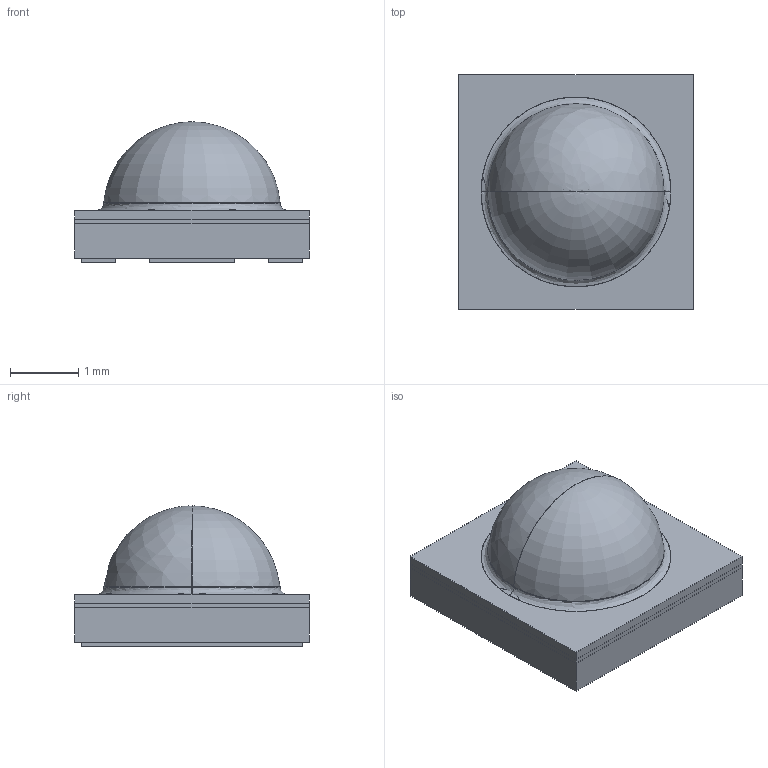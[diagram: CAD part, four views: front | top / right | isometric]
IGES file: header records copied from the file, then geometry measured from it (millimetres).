
Start section: SolidWorks IGES file using analytic representation for surfaces
Global section: file name: K:\02.じン祘\20.瓜郎戈畐\08.3D瓜郎\02.STL\NEW\02.Ceramic 3535\EOH-CTRUCEA-KG.IGS; native system: SolidWorks 2012; preprocessor: SolidWorks 2012; author: JackChen; date: 170223.081417; units: millimetre
Bounding box: 3.45 x 3.45 x 2.06 mm (x, y, z)
Surface area: 39.9 mm2 (no closed solid volume)
Topology: 0 solids, 0 shells, 36 faces, 190 edges, 188 vertices
Faces by surface type: bspline 34, revolution 2
